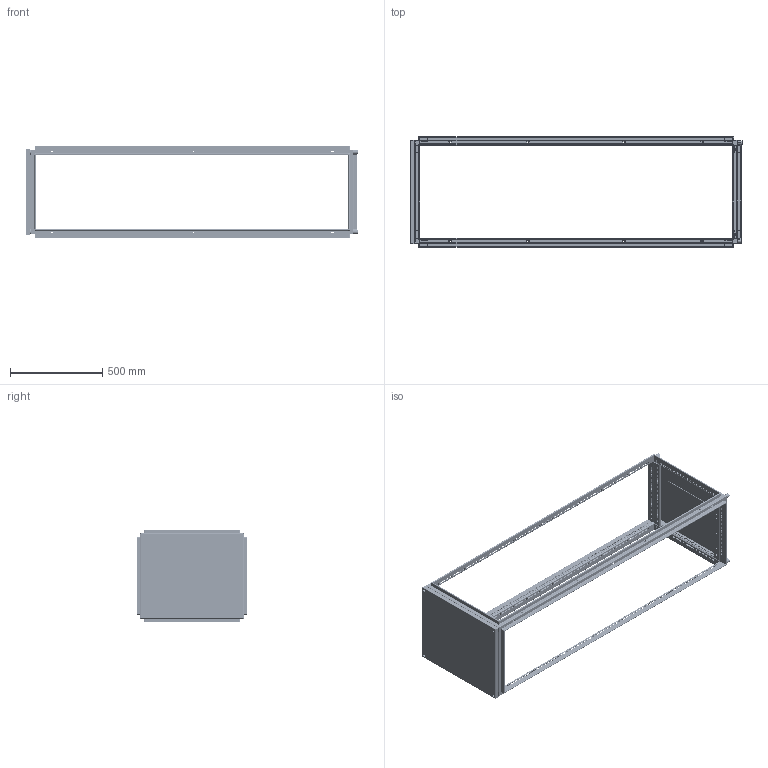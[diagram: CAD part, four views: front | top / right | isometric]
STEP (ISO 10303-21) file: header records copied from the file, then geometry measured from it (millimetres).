
FILE_DESCRIPTION (( 'STEP AP214' ), '1' );
FILE_NAME ('Êàðêàñ1800x600x500(259534).STEP', '2018-07-05T12:13:48', ( '' ), ( '' ), 'SwSTEP 2.0', 'SolidWorks 2018', '' );
FILE_SCHEMA (( 'AUTOMOTIVE_DESIGN' ));
Length unit declared in the file: millimetre
Products named in the file (12): Êðûøà600x500; 橡铘桦铌钼铋1800; ﾄ濵600x500; 瓔鍐麃鍧鍷; 瓔鍼賙鍷; äíî áîêîâèíà500; Ïðîôèëü600; ÄíîÊðûøêà600x500; 忺謤僔1800x600x500(259534); Ïðîôèëü500; 忺謤僔600x500x1800; 赶鎀鍧
Assembly tree (28 placements, depth 3):
  忺謤僔1800x600x500(259534)
    忺謤僔600x500x1800
      橡铘桦铌钼铋1800  x4
      赶鎀鍧  x8
      Ïðîôèëü600  x4
      Ïðîôèëü500  x4
    ﾄ濵600x500
      äíî áîêîâèíà500  x2
      瓔鍐麃鍧鍷
      瓔鍼賙鍷
      ÄíîÊðûøêà600x500
    Êðûøà600x500
Bounding box: 1800.5 x 600 x 500 mm (x, y, z)
Volume: 4171138.8 mm3; surface area: 5494482.6 mm2
Topology: 26 solids, 26 shells, 7966 faces, 22232 edges, 14350 vertices
Faces by surface type: plane 5340, cylinder 2594, sphere 24, bspline 8
Entity records: 67343 total; most frequent: CARTESIAN_POINT 11780, ORIENTED_EDGE 11298, DIRECTION 11071, EDGE_CURVE 5649, VECTOR 4327, LINE 4327, VERTEX_POINT 3633, AXIS2_PLACEMENT_3D 3372
